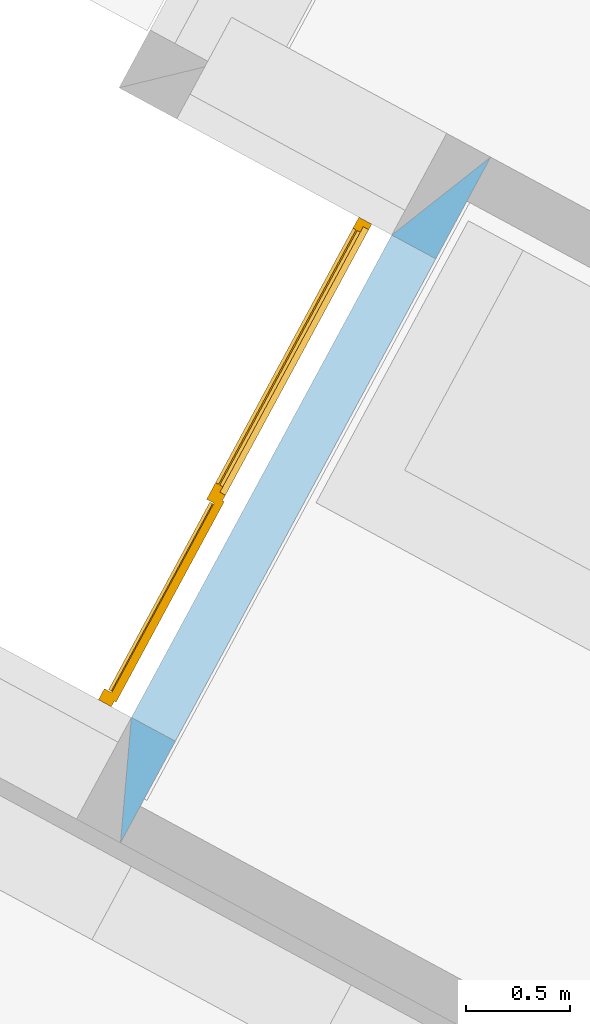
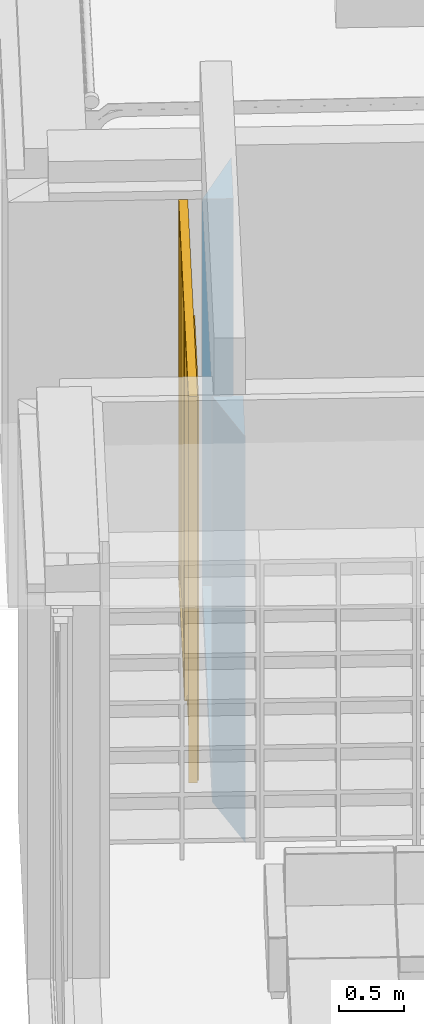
# One storey, part 8 of 36: 1 door, 1 opening, plus 1 element that does not belong to this part.
"""IFC2X3 building model written with IfcOpenShell, lengths in metres."""

from ifc_helpers import new_model, entity, si_unit, converted_unit, derived_unit, money_unit, direction, frame, origin_with_axes, origin_2d_with_axis, place, context, subcontext, project, spatial, polyline, rectangle, outline, extrude, faceted_brep, material, layer, layer_set, layer_usage, type_object, element, fill, save


model = new_model("IFC2X3")

# Units and contexts
model_context = context("Model", 3, precision=1e-05, world=origin_with_axes(), true_north=direction((0.0, 1.0)))
body_context = subcontext(model_context, "Body", "Model", "MODEL_VIEW")
ifc_project = project(units=[si_unit("LENGTHUNIT", "METRE"), si_unit("AREAUNIT", "SQUARE_METRE"), si_unit("VOLUMEUNIT", "CUBIC_METRE"), converted_unit("PLANEANGLEUNIT", "DEGREE", entity("IfcPlaneAngleMeasure", 0.0174532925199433), si_unit("PLANEANGLEUNIT", "RADIAN"), dimensions=[0, 0, 0, 0, 0, 0, 0]), money_unit("EUR"), converted_unit("TIMEUNIT", "Year", entity("IfcTimeMeasure", 31556926.0), si_unit("TIMEUNIT", "SECOND"), dimensions=[0, 0, 1, 0, 0, 0, 0]), si_unit("MASSUNIT", "GRAM", prefix="KILO"), si_unit("THERMODYNAMICTEMPERATUREUNIT", "DEGREE_CELSIUS"), si_unit("LUMINOUSINTENSITYUNIT", "LUMEN"), si_unit("ENERGYUNIT", "JOULE", prefix="MEGA"), derived_unit("THERMALCONDUCTANCEUNIT", [(si_unit("POWERUNIT", "WATT"), 1), (si_unit("LENGTHUNIT", "METRE"), -1), (si_unit("THERMODYNAMICTEMPERATUREUNIT", "KELVIN"), -1)]), derived_unit("SPECIFICHEATCAPACITYUNIT", [(si_unit("ENERGYUNIT", "JOULE"), 1), (si_unit("MASSUNIT", "GRAM", prefix="KILO"), -1), (si_unit("THERMODYNAMICTEMPERATUREUNIT", "KELVIN"), -1)]), derived_unit("MASSDENSITYUNIT", [(si_unit("MASSUNIT", "GRAM", prefix="KILO"), 1), (si_unit("VOLUMEUNIT", "CUBIC_METRE"), -1)])], contexts=[model_context])

# Site, building, storey
site_placement = place(None, frame((-3.949935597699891, 1.740105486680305, 0.0), z_axis=(0.0, 0.0, 1.0), x_axis=(0.8799804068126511, -0.475009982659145, 0.0)))
site = spatial("IfcSite", under=ifc_project, at=site_placement, Name="Gelände", CompositionType="ELEMENT")
building_placement = place(site_placement, origin_with_axes())
building = spatial("IfcBuilding", under=site, at=building_placement, Name="Gebäude", CompositionType="ELEMENT")
storey_placement = place(building_placement, origin_with_axes())
storey = spatial("IfcBuildingStorey", under=building, at=storey_placement, Name="Erdgeschoss", CompositionType="ELEMENT", Elevation=0.0)

# Wall, opening, door
ifc_material = material(Name="_SIWH - Beton, Stahlbeton")
ifc_layer = layer(ifc_material, 0.24, ventilated="UNKNOWN")
ifc_layer_set = layer_set([ifc_layer], Name="_SIWH - WI | Stb. 24 | 24cm")
ifc_layer_usage = layer_usage(ifc_layer_set, "AXIS2", "POSITIVE", 0.0)
wall_type = type_object("IfcWallType", Name="_SIWH - WI | Stb. 24 | 24cm 240", PredefinedType="NOTDEFINED")
wall_placement = place(storey_placement, frame((5.357481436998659, 10.65780061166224, -0.1800000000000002), z_axis=(0.0, 0.0, 1.0), x_axis=(0.0, -1.0, 0.0)))
wall = element("IfcWallStandardCase", 1, at=wall_placement, inside=storey, type_object=wall_type, material=ifc_layer_usage, Name="A-Wand006", ObjectType="NOTDEFINED", context=body_context, shape_type="SweptSolid", body=[
    extrude(outline(polyline([(0.3149999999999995, 0.0), (2.949766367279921, 0.0), (3.504766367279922, 0.2400000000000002), (-0.2400000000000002, 0.2400000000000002), (0.3149999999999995, 0.0)])), origin_with_axes(), (0.0, 0.0, 1.0), 3.800000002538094),
])
opening_placement = place(wall_placement, frame((1.632383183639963, 0.0, 0.1800000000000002), z_axis=(0.0, 0.0, 1.0), x_axis=(1.0, 0.0, 0.0)))
opening = element("IfcOpeningElement", 2, at=opening_placement, cuts=wall, Name="Tür-018", context=body_context, shape_type="SweptSolid", body=[
    extrude(rectangle(XDim=2.634766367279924, YDim=3.62, at=origin_2d_with_axis()), frame((0.0, 0.2400000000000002, 1.81), z_axis=(0.0, -1.0, 0.0), x_axis=(1.0, 0.0, 0.0)), (0.0, 0.0, 1.0), 0.8999999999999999),
])
door_style = type_object("IfcDoorStyle", Name="Eingang 01 1-Fl 1S 26", ConstructionType="NOTDEFINED", OperationType="SINGLE_SWING_RIGHT", ParameterTakesPrecedence=False, Sizeable=False)
door_placement = place(opening_placement, frame((-1.317383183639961, 0.0, 0.0), z_axis=(0.0, 0.0, 1.0), x_axis=(1.0, 0.0, 0.0)))
door = element("IfcDoor", 3, at=door_placement, inside=storey, type_object=door_style, Name="Tür-018", ObjectType="DOOR", OverallHeight=3.62, OverallWidth=2.63477, context=body_context, shape_type="Brep", body=[
    faceted_brep([(0.0600000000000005, -0.1799999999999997, 0.06), (0.0600000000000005, -0.1399999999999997, 0.06), (0.0600000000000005, -0.1399999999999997, 0.0), (0.0600000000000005, -0.1799999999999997, 0.0), (1.449899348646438, -0.1800000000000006, 0.06), (1.449899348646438, -0.1400000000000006, 0.06), (1.449899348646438, -0.1400000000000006, 3.56), (1.539899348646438, -0.1400000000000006, 3.56), (1.539899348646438, -0.1400000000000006, 0.0), (1.539899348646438, -0.1800000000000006, 0.0), (1.539899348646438, -0.1799999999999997, 3.56), (1.449899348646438, -0.1799999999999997, 3.56)], [[[0, 1, 2, 3]], [[4, 5, 1, 0]], [[1, 5, 6, 7, 8, 2]], [[3, 2, 8, 9]], [[0, 3, 9, 10, 11, 4]], [[11, 6, 5, 4]], [[10, 7, 6, 11]], [[9, 8, 7, 10]]]),
    faceted_brep([(0.02999999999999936, -0.1399999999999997, 0.03), (0.02999999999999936, -0.1100000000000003, 0.03), (0.02999999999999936, -0.1100000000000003, 0.0), (0.02999999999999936, -0.1399999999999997, 0.0), (1.479899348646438, -0.1400000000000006, 0.03), (1.479899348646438, -0.1100000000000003, 0.03), (1.479899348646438, -0.1100000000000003, 3.59), (1.509899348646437, -0.1100000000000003, 3.59), (1.509899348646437, -0.1100000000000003, 0.0), (1.509899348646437, -0.1400000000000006, 0.0), (1.509899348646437, -0.1400000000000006, 3.59), (1.479899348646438, -0.1400000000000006, 3.59)], [[[0, 1, 2, 3]], [[4, 5, 1, 0]], [[1, 5, 6, 7, 8, 2]], [[3, 2, 8, 9]], [[0, 3, 9, 10, 11, 4]], [[11, 6, 5, 4]], [[10, 7, 6, 11]], [[9, 8, 7, 10]]]),
    faceted_brep([(2.634766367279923, -0.1799999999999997, 0.0), (2.634766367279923, -0.1399999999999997, 0.0), (2.634766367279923, -0.1399999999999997, 3.62), (2.634766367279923, -0.1799999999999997, 3.62), (2.574766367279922, -0.1799999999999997, 0.0), (2.574766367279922, -0.1399999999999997, 0.0), (2.574766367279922, -0.1399999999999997, 3.56), (1.539899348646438, -0.1400000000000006, 3.56), (1.449899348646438, -0.1400000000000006, 3.56), (0.0600000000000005, -0.1399999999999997, 3.56), (0.0600000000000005, -0.1399999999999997, 0.06), (0.0600000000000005, -0.1399999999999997, 0.0), (0.0, -0.1399999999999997, 0.0), (0.0, -0.1399999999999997, 3.62), (0.0, -0.1799999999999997, 3.62), (0.0, -0.1799999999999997, 0.0), (0.0600000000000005, -0.1799999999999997, 0.0), (0.0600000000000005, -0.1799999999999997, 0.06), (0.0600000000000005, -0.1799999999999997, 3.56), (1.449899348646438, -0.1799999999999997, 3.56), (1.539899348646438, -0.1799999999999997, 3.56), (2.574766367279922, -0.1799999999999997, 3.56)], [[[0, 1, 2, 3]], [[4, 5, 1, 0]], [[1, 5, 6, 7, 8, 9, 10, 11, 12, 13, 2]], [[3, 2, 13, 14]], [[0, 3, 14, 15, 16, 17, 18, 19, 20, 21, 4]], [[21, 6, 5, 4]], [[20, 7, 6, 21]], [[19, 8, 7, 20]], [[18, 9, 8, 19]], [[17, 10, 9, 18]], [[16, 11, 10, 17]], [[15, 12, 11, 16]], [[14, 13, 12, 15]]]),
    faceted_brep([(2.634766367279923, -0.1399999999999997, 0.0), (2.634766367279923, -0.1099999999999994, 0.0), (2.634766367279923, -0.1099999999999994, 3.62), (2.634766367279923, -0.1399999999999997, 3.62), (2.604766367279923, -0.1399999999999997, 0.0), (2.604766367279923, -0.1099999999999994, 0.0), (2.604766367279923, -0.1099999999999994, 3.59), (1.509899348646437, -0.1100000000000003, 3.59), (1.479899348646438, -0.1100000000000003, 3.59), (0.02999999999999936, -0.1099999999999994, 3.59), (0.02999999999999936, -0.1100000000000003, 0.03), (0.02999999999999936, -0.1100000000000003, 0.0), (0.0, -0.1100000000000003, 0.0), (0.0, -0.1099999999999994, 3.62), (0.0, -0.1399999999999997, 3.62), (0.0, -0.1399999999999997, 0.0), (0.02999999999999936, -0.1399999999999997, 0.0), (0.02999999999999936, -0.1399999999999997, 0.03), (0.02999999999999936, -0.1399999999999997, 3.59), (1.479899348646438, -0.1400000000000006, 3.59), (1.509899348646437, -0.1400000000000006, 3.59), (2.604766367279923, -0.1399999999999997, 3.59)], [[[0, 1, 2, 3]], [[4, 5, 1, 0]], [[1, 5, 6, 7, 8, 9, 10, 11, 12, 13, 2]], [[3, 2, 13, 14]], [[0, 3, 14, 15, 16, 17, 18, 19, 20, 21, 4]], [[21, 6, 5, 4]], [[20, 7, 6, 21]], [[19, 8, 7, 20]], [[18, 9, 8, 19]], [[17, 10, 9, 18]], [[16, 11, 10, 17]], [[15, 12, 11, 16]], [[14, 13, 12, 15]]]),
    faceted_brep([(0.0600000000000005, -0.1565000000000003, 0.06), (1.449899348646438, -0.1565000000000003, 0.06), (1.449899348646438, -0.1635, 0.06), (0.0600000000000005, -0.1635, 0.06), (0.0600000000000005, -0.1565000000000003, 3.56), (1.449899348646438, -0.1565000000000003, 3.56), (1.449899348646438, -0.1635, 3.56), (0.0600000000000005, -0.1635, 3.56)], [[[0, 1, 2, 3]], [[0, 4, 5, 1]], [[1, 5, 6, 2]], [[3, 2, 6, 7]], [[4, 0, 3, 7]], [[5, 4, 7, 6]]]),
    faceted_brep([(2.604766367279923, -0.09999999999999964, 0.0), (1.509899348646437, -0.1000000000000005, 0.0), (1.509899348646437, -0.1000000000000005, 3.59), (2.604766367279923, -0.09999999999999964, 3.59), (2.604766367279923, -0.1399999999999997, 0.0), (1.509899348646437, -0.1400000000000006, 0.0), (1.509899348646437, -0.1400000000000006, 3.59), (2.604766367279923, -0.1399999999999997, 3.59)], [[[0, 1, 2, 3]], [[1, 0, 4, 5]], [[2, 1, 5, 6]], [[3, 2, 6, 7]], [[0, 3, 7, 4]], [[5, 4, 7, 6]]]),
    faceted_brep([(2.569766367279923, -0.1599999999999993, 0.0), (2.569766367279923, -0.1599999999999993, 0.05), (1.544899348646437, -0.1600000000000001, 0.05), (1.544899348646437, -0.1600000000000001, 0.0), (2.569766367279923, -0.1399999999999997, 0.0), (2.569766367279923, -0.1399999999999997, 0.07), (2.569766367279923, -0.1449999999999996, 0.07), (1.544899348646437, -0.1450000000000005, 0.07), (1.544899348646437, -0.1400000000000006, 0.07), (1.544899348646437, -0.1400000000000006, 0.0)], [[[0, 1, 2, 3]], [[0, 4, 5, 6, 1]], [[1, 6, 7, 2]], [[3, 2, 7, 8, 9]], [[4, 0, 3, 9]], [[5, 4, 9, 8]], [[6, 5, 8, 7]]]),
])
fill(opening, door)

save(model, "model.ifc")
